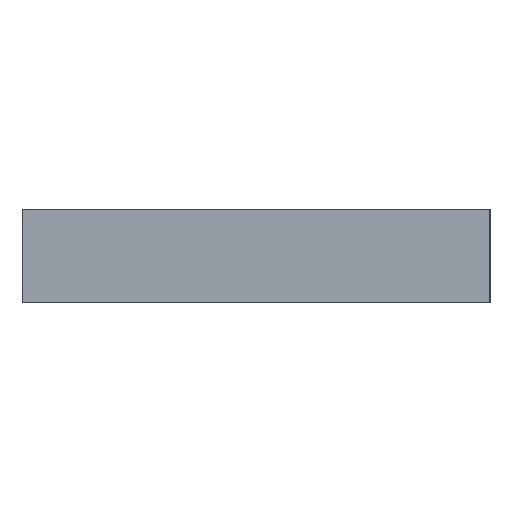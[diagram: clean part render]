
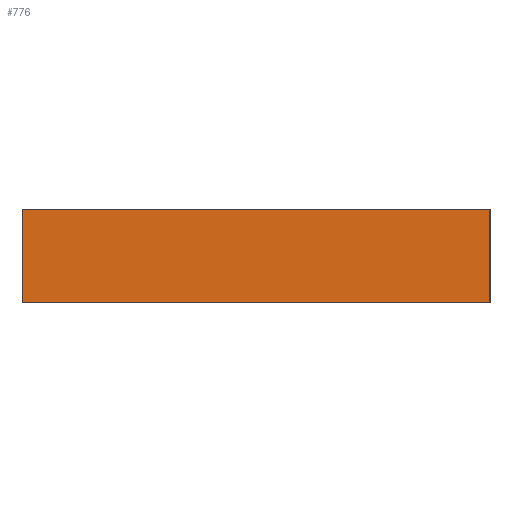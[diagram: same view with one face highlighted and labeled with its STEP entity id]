
A CAD part, left-side view. The second image highlights one B-rep face of the part: STEP entity #776.
In plain terms, the highlighted planar face has unit normal (-1, 0, 0).
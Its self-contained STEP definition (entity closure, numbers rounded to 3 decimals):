
#13 = CARTESIAN_POINT ( 'NONE',  ( -80., -50., 20. ) ) ;
#52 = PLANE ( 'NONE',  #958 ) ;
#74 = CARTESIAN_POINT ( 'NONE',  ( -80., 50., 20. ) ) ;
#116 = DIRECTION ( 'NONE',  ( 0., -1., 0. ) ) ;
#139 = DIRECTION ( 'NONE',  ( 0., -1., 0. ) ) ;
#174 = LINE ( 'NONE', #266, #374 ) ;
#197 = CARTESIAN_POINT ( 'NONE',  ( -80., 50., 0. ) ) ;
#228 = CARTESIAN_POINT ( 'NONE',  ( -80., -50., -1. ) ) ;
#244 = VERTEX_POINT ( 'NONE', #13 ) ;
#266 = CARTESIAN_POINT ( 'NONE',  ( -80., 50., 0. ) ) ;
#303 = EDGE_CURVE ( 'NONE', #837, #546, #924, .T. ) ;
#311 = DIRECTION ( 'NONE',  ( 0., 0., 1. ) ) ;
#374 = VECTOR ( 'NONE', #116, 1000. ) ;
#405 = EDGE_CURVE ( 'NONE', #837, #648, #174, .T. ) ;
#430 = DIRECTION ( 'NONE',  ( -1., 0., 0. ) ) ;
#433 = CARTESIAN_POINT ( 'NONE',  ( -80., 50., -1. ) ) ;
#494 = VECTOR ( 'NONE', #311, 1000. ) ;
#531 = DIRECTION ( 'NONE',  ( 0., 0., 1. ) ) ;
#546 = VERTEX_POINT ( 'NONE', #74 ) ;
#558 = CARTESIAN_POINT ( 'NONE',  ( -80., 50., -1. ) ) ;
#563 = EDGE_CURVE ( 'NONE', #648, #244, #815, .T. ) ;
#565 = FACE_OUTER_BOUND ( 'NONE', #786, .T. ) ;
#570 = ORIENTED_EDGE ( 'NONE', *, *, #303, .F. ) ;
#598 = CARTESIAN_POINT ( 'NONE',  ( -80., 50., 20. ) ) ;
#612 = CARTESIAN_POINT ( 'NONE',  ( -80., -50., 0. ) ) ;
#639 = ORIENTED_EDGE ( 'NONE', *, *, #710, .F. ) ;
#648 = VERTEX_POINT ( 'NONE', #612 ) ;
#655 = ORIENTED_EDGE ( 'NONE', *, *, #405, .T. ) ;
#705 = VECTOR ( 'NONE', #531, 1000. ) ;
#710 = EDGE_CURVE ( 'NONE', #546, #244, #1010, .T. ) ;
#776 = ADVANCED_FACE ( 'NONE', ( #565 ), #52, .T. ) ;
#786 = EDGE_LOOP ( 'NONE', ( #570, #655, #848, #639 ) ) ;
#815 = LINE ( 'NONE', #228, #705 ) ;
#834 = VECTOR ( 'NONE', #139, 1000. ) ;
#837 = VERTEX_POINT ( 'NONE', #197 ) ;
#848 = ORIENTED_EDGE ( 'NONE', *, *, #563, .T. ) ;
#913 = DIRECTION ( 'NONE',  ( 0., 0., 1. ) ) ;
#924 = LINE ( 'NONE', #558, #494 ) ;
#958 = AXIS2_PLACEMENT_3D ( 'NONE', #433, #430, #913 ) ;
#1010 = LINE ( 'NONE', #598, #834 ) ;
